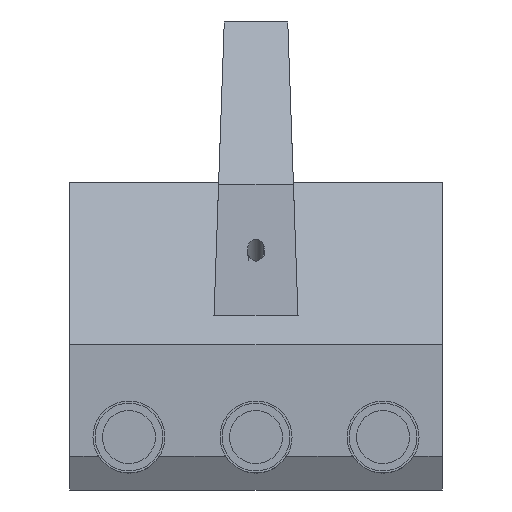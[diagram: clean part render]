
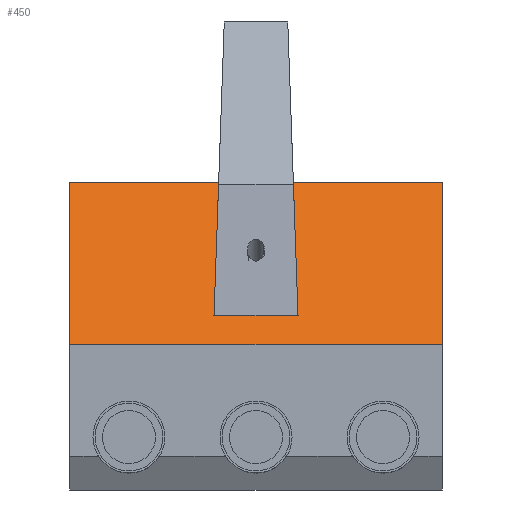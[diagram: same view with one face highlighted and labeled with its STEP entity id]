
A CAD part, front view. The second image highlights one B-rep face of the part: STEP entity #450.
In plain terms, the highlighted planar face has unit normal (0, -0.707, 0.707).
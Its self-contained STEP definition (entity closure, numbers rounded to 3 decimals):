
#450=ADVANCED_FACE('Solid.46',(#1061),#1062,.F.);
#1061=FACE_OUTER_BOUND('',#1881,.T.);
#1062=PLANE('',#1882);
#1881=EDGE_LOOP('',(#3070,#3071,#3072,#3073,#3074,#3075,#3076,#3077));
#1882=AXIS2_PLACEMENT_3D('',#3078,#3079,#3080);
#3070=ORIENTED_EDGE('',*,*,#4996,.T.);
#3071=ORIENTED_EDGE('',*,*,#4997,.T.);
#3072=ORIENTED_EDGE('',*,*,#4975,.T.);
#3073=ORIENTED_EDGE('',*,*,#4916,.F.);
#3074=ORIENTED_EDGE('',*,*,#4998,.T.);
#3075=ORIENTED_EDGE('',*,*,#4999,.T.);
#3076=ORIENTED_EDGE('',*,*,#5000,.F.);
#3077=ORIENTED_EDGE('',*,*,#5001,.T.);
#3078=CARTESIAN_POINT('',(0.0,-52.5,21.746));
#3079=DIRECTION('',(0.0,0.707,-0.707));
#3080=DIRECTION('',(0.0,0.707,0.707));
#4916=EDGE_CURVE('',#5967,#5969,#5970,.T.);
#4975=EDGE_CURVE('',#6059,#5969,#6060,.T.);
#4996=EDGE_CURVE('',#6090,#6091,#6092,.T.);
#4997=EDGE_CURVE('',#6091,#6059,#6093,.T.);
#4998=EDGE_CURVE('',#5967,#6094,#6095,.T.);
#4999=EDGE_CURVE('',#6094,#6096,#6097,.T.);
#5000=EDGE_CURVE('',#6098,#6096,#6099,.T.);
#5001=EDGE_CURVE('',#6098,#6090,#6100,.F.);
#5967=VERTEX_POINT('',#7398);
#5969=VERTEX_POINT('',#7401);
#5970=LINE('',#7402,#7403);
#6059=VERTEX_POINT('',#7510);
#6060=LINE('',#7511,#7512);
#6090=VERTEX_POINT('',#7543);
#6091=VERTEX_POINT('',#7544);
#6092=LINE('',#7545,#7546);
#6093=LINE('',#7547,#7548);
#6094=VERTEX_POINT('',#7549);
#6095=LINE('',#7550,#7551);
#6096=VERTEX_POINT('',#7552);
#6097=LINE('',#7553,#7554);
#6098=VERTEX_POINT('',#7555);
#6099=LINE('',#7556,#7557);
#6100=LINE('',#7558,#7559);
#7398=CARTESIAN_POINT('',(-44.0,-52.5,21.746));
#7401=CARTESIAN_POINT('',(-44.0,-14.246,60.0));
#7402=CARTESIAN_POINT('',(-44.0,-33.373,40.873));
#7403=VECTOR('',#8960,1.0);
#7510=CARTESIAN_POINT('',(-8.827,-14.246,60.0));
#7511=CARTESIAN_POINT('',(-26.413,-14.246,60.0));
#7512=VECTOR('',#9081,1.0);
#7543=CARTESIAN_POINT('',(9.918,-45.5,28.746));
#7544=CARTESIAN_POINT('',(-9.918,-45.5,28.746));
#7545=CARTESIAN_POINT('',(0.,-45.5,28.746));
#7546=VECTOR('',#9137,1.0);
#7547=CARTESIAN_POINT('',(-9.373,-29.873,44.373));
#7548=VECTOR('',#9138,1.0);
#7549=CARTESIAN_POINT('',(44.0,-52.5,21.746));
#7550=CARTESIAN_POINT('',(0.0,-52.5,21.746));
#7551=VECTOR('',#9139,1.0);
#7552=CARTESIAN_POINT('',(44.0,-14.246,60.0));
#7553=CARTESIAN_POINT('',(44.0,-33.373,40.873));
#7554=VECTOR('',#9140,1.0);
#7555=CARTESIAN_POINT('',(8.827,-14.246,60.0));
#7556=CARTESIAN_POINT('',(26.413,-14.246,60.0));
#7557=VECTOR('',#9141,1.0);
#7558=CARTESIAN_POINT('',(9.373,-29.873,44.373));
#7559=VECTOR('',#9142,1.0);
#8960=DIRECTION('',(0.0,0.707,0.707));
#9081=DIRECTION('',(-1.0,0.0,0.0));
#9137=DIRECTION('',(-1.0,0.0,0.));
#9138=DIRECTION('',(0.025,0.707,0.707));
#9139=DIRECTION('',(1.0,0.0,0.0));
#9140=DIRECTION('',(0.0,0.707,0.707));
#9141=DIRECTION('',(1.0,0.0,0.0));
#9142=DIRECTION('',(-0.025,0.707,0.707));
